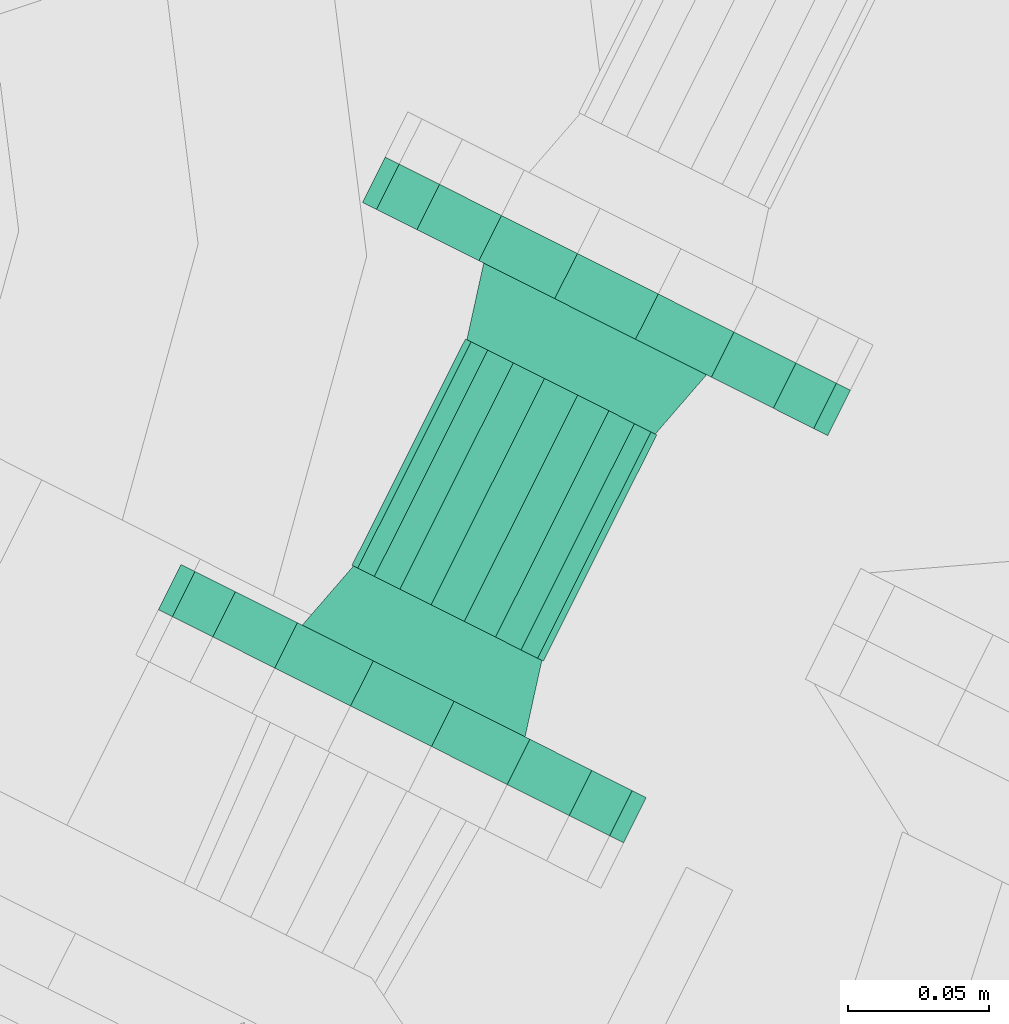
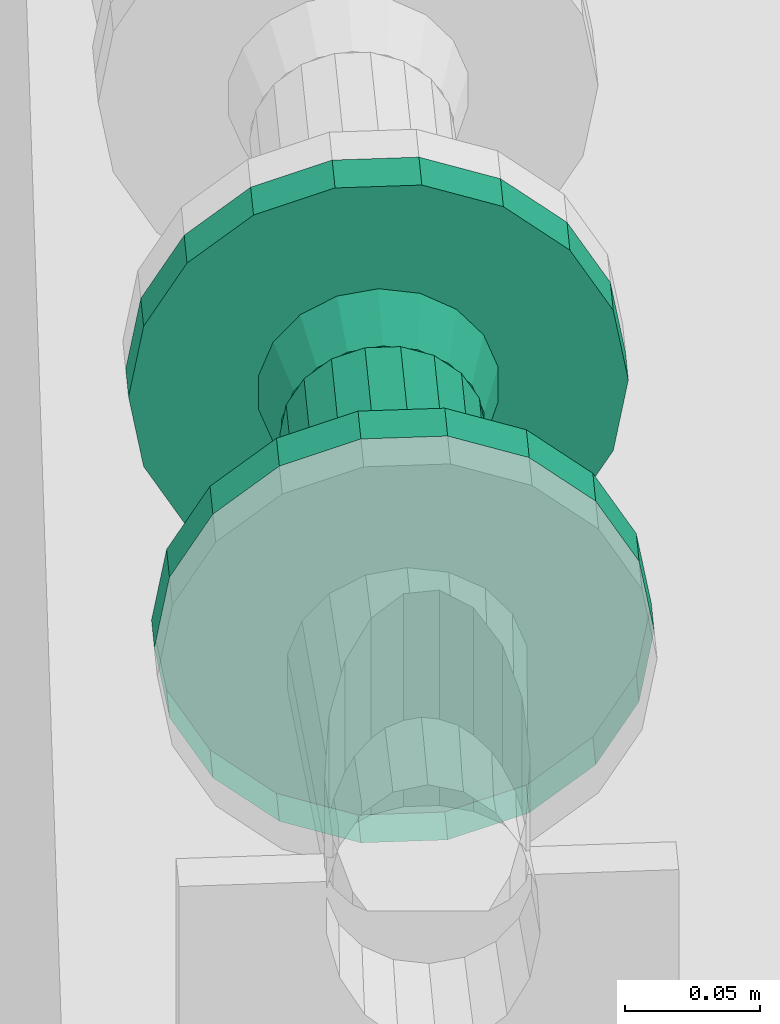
# One storey, part 68 of 206: 2 flow fittings, 1 flow segment.
"""IFC2X3 building model written with IfcOpenShell, lengths in metres."""

from ifc_helpers import new_model, si_unit, derived_unit, direction, frame, origin, place, context, subcontext, project, spatial, face_set, surface_model, source, transform, mapped, material, type_object, type_shapes, element, save


model = new_model("IFC2X3")

# Units and contexts
model_context = context("Model", 3, precision=5.2338327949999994e-05, world=origin(), true_north=direction((0.0, 1.0)))
body_context = subcontext(model_context, "Body", "Model", "MODEL_VIEW")
ifc_project = project(units=[si_unit("LENGTHUNIT", "METRE"), si_unit("AREAUNIT", "SQUARE_METRE"), si_unit("VOLUMEUNIT", "CUBIC_METRE"), si_unit("MASSUNIT", "GRAM", prefix="KILO"), si_unit("PLANEANGLEUNIT", "RADIAN"), derived_unit("THERMALTRANSMITTANCEUNIT", [(si_unit("MASSUNIT", "GRAM", prefix="KILO"), 1), (si_unit("THERMODYNAMICTEMPERATUREUNIT", "KELVIN"), -1), (si_unit("TIMEUNIT", "SECOND"), -3)])], contexts=[model_context])

# Site, building, storey
site_placement = place(None, frame((0.0, 0.0, 0.0), z_axis=(0.0, 0.0, 1.0), x_axis=(0.8939966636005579, -0.4480736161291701, 0.0)))
site = spatial("IfcSite", under=ifc_project, at=site_placement, Name="Default", CompositionType="ELEMENT")
building_placement = place(site_placement, origin())
building = spatial("IfcBuilding", under=site, at=building_placement, CompositionType="ELEMENT")
storey_placement = place(building_placement, origin())
storey = spatial("IfcBuildingStorey", under=building, at=storey_placement, Name="Erdgeschoss", CompositionType="ELEMENT", Elevation=0.0)

# Flow fitting
ifc_material = material(Name="IfcSurfaceStyle #352577")
distribution_element_type_1 = type_object("IfcDistributionElementType", Name="Flansch 604159:Flansch 604159", material=ifc_material)
shared_shape_1 = source(origin(), body_context, "Body", "SurfaceModel", [
    surface_model("IfcFaceBasedSurfaceModel", [(24.998140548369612, 5.71795839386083, 0.8699999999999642), (25.00371898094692, 5.71795839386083, 0.8383631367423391), (25.00371898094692, 5.699958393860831, 0.8383631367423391), (24.998140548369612, 5.699958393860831, 0.8699999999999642), (25.01978143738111, 5.71795839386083, 0.810542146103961), (25.01978143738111, 5.699958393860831, 0.810542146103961), (25.044390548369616, 5.71795839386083, 0.7898926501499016), (25.044390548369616, 5.699958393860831, 0.7898926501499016), (25.07457809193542, 5.71795839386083, 0.7789052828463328), (25.07457809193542, 5.699958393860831, 0.7789052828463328), (25.10670300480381, 5.71795839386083, 0.7789052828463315), (25.10670300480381, 5.699958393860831, 0.7789052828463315), (25.136890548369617, 5.71795839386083, 0.7898926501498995), (25.136890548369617, 5.699958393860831, 0.7898926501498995), (25.161499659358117, 5.71795839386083, 0.8105421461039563), (25.161499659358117, 5.699958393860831, 0.8105421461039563), (25.17756211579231, 5.71795839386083, 0.8383631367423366), (25.17756211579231, 5.699958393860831, 0.8383631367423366), (25.183140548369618, 5.71795839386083, 0.8699999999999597), (25.183140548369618, 5.699958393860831, 0.8699999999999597), (25.17756211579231, 5.71795839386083, 0.9016368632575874), (25.17756211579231, 5.699958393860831, 0.9016368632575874), (25.161499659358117, 5.71795839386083, 0.9294578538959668), (25.161499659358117, 5.699958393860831, 0.9294578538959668), (25.13689054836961, 5.71795839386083, 0.9501073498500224), (25.13689054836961, 5.699958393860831, 0.9501073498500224), (25.10670300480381, 5.71795839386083, 0.9610947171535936), (25.10670300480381, 5.699958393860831, 0.9610947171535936), (25.07457809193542, 5.71795839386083, 0.9610947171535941), (25.07457809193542, 5.699958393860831, 0.9610947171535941), (25.044390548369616, 5.71795839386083, 0.9501073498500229), (25.044390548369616, 5.699958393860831, 0.9501073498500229), (25.01978143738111, 5.71795839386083, 0.9294578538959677), (25.01978143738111, 5.699958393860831, 0.9294578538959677), (25.003718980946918, 5.71795839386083, 0.9016368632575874), (25.003718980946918, 5.699958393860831, 0.9016368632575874), (25.090640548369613, 5.699958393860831, 0.8699999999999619), (25.090640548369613, 5.699958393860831, 0.8249999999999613), (25.106031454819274, 5.699958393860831, 0.8277138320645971), (25.10365441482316, 5.672958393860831, 0.8342446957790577), (25.090640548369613, 5.672958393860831, 0.8319499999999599), (25.119565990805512, 5.699958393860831, 0.8355280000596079), (25.11509861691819, 5.672958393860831, 0.8408520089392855), (25.129611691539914, 5.699958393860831, 0.8474999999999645), (25.123592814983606, 5.672958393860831, 0.8509749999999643), (25.13495689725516, 5.699958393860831, 0.8621858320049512), (25.128112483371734, 5.672958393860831, 0.8633926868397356), (25.13495689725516, 5.699958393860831, 0.8778141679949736), (25.12811248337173, 5.672958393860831, 0.8766073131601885), (25.129611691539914, 5.699958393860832, 0.8924999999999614), (25.123592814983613, 5.6729583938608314, 0.889024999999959), (25.119565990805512, 5.699958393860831, 0.9044719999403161), (25.115098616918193, 5.672958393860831, 0.8991479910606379), (25.10603145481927, 5.699958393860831, 0.9122861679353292), (25.10365441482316, 5.672958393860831, 0.9057553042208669), (25.090640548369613, 5.699958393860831, 0.9149999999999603), (25.090640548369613, 5.672958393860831, 0.9080499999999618), (25.075249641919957, 5.699958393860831, 0.9122861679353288), (25.07762668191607, 5.672958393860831, 0.9057553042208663), (25.061715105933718, 5.69995839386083, 0.9044719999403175), (25.06618247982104, 5.67295839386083, 0.8991479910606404), (25.051669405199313, 5.699958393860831, 0.8924999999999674), (25.05768828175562, 5.672958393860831, 0.8890249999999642), (25.046324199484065, 5.699958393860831, 0.8778141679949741), (25.053168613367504, 5.672958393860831, 0.8766073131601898), (25.046324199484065, 5.699958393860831, 0.8621858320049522), (25.0531686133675, 5.672958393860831, 0.8633926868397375), (25.051669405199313, 5.699958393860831, 0.8474999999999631), (25.05768828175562, 5.672958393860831, 0.850974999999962), (25.061715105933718, 5.699958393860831, 0.8355280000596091), (25.06618247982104, 5.672958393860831, 0.8408520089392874), (25.075249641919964, 5.699958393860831, 0.8277138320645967), (25.077626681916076, 5.672958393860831, 0.8342446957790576)], [face_set([[[0, 1, 2, 3]], [[1, 4, 5, 2]], [[4, 6, 7, 5]], [[6, 8, 9, 7]], [[8, 10, 11, 9]], [[10, 12, 13, 11]], [[12, 14, 15, 13]], [[14, 16, 17, 15]], [[16, 18, 19, 17]], [[18, 20, 21, 19]], [[20, 22, 23, 21]], [[22, 24, 25, 23]], [[24, 26, 27, 25]], [[26, 28, 29, 27]], [[28, 30, 31, 29]], [[30, 32, 33, 31]], [[32, 34, 35, 33]], [[34, 0, 3, 35]], [[36, 35, 3]], [[36, 33, 35]], [[36, 31, 33]], [[36, 29, 31]], [[36, 27, 29]], [[36, 25, 27]], [[36, 23, 25]], [[36, 21, 23]], [[36, 19, 21]], [[36, 17, 19]], [[36, 15, 17]], [[36, 13, 15]], [[36, 11, 13]], [[36, 9, 11]], [[36, 7, 9]], [[36, 5, 7]], [[36, 2, 5]], [[36, 3, 2]], [[37, 38, 39, 40]], [[38, 41, 42, 39]], [[41, 43, 44, 42]], [[43, 45, 46, 44]], [[45, 47, 48, 46]], [[47, 49, 50, 48]], [[49, 51, 52, 50]], [[51, 53, 54, 52]], [[53, 55, 56, 54]], [[55, 57, 58, 56]], [[57, 59, 60, 58]], [[59, 61, 62, 60]], [[61, 63, 64, 62]], [[63, 65, 66, 64]], [[65, 67, 68, 66]], [[67, 69, 70, 68]], [[69, 71, 72, 70]], [[71, 37, 40, 72]]])]),
])
type_shapes(distribution_element_type_1, [shared_shape_1])
flow_fitting_1_placement = place(storey_placement, origin())
element("IfcFlowFitting", 1, at=flow_fitting_1_placement, inside=storey, type_object=distribution_element_type_1, material=ifc_material, Name="Flansch", ObjectType="Flansch", context=body_context, shape_type="MappedRepresentation", body=[
    mapped(shared_shape_1, transform((0.0, 0.0, 0.0), scale=1.0)),
])

# Flow segment
distribution_element_type_2 = type_object("IfcDistributionElementType", Name="Stahlrohr nach DIN 2448 604224:Stahlrohr nach DIN 2448 604224", material=ifc_material)
shared_shape_2 = source(origin(), body_context, "Body", "SurfaceModel", [
    surface_model("IfcFaceBasedSurfaceModel", [(25.128690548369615, 5.672958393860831, 0.869999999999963), (25.126395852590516, 5.672958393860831, 0.8830138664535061), (25.126395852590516, 5.582958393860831, 0.8830138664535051), (25.128690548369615, 5.582958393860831, 0.8699999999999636), (25.11978853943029, 5.672958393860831, 0.8944580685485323), (25.119788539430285, 5.582958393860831, 0.8944580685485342), (25.109665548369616, 5.672958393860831, 0.902952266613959), (25.10966554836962, 5.582958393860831, 0.902952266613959), (25.097247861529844, 5.672958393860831, 0.9074719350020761), (25.097247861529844, 5.582958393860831, 0.9074719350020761), (25.084033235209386, 5.672958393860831, 0.9074719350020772), (25.084033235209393, 5.582958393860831, 0.9074719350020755), (25.071615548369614, 5.672958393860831, 0.9029522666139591), (25.07161554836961, 5.582958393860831, 0.9029522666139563), (25.061492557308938, 5.672958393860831, 0.8944580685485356), (25.06149255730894, 5.582958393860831, 0.8944580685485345), (25.05488524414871, 5.672958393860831, 0.8830138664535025), (25.05488524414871, 5.582958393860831, 0.8830138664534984), (25.052590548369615, 5.672958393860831, 0.8699999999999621), (25.05259054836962, 5.582958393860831, 0.8699999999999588), (25.05488524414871, 5.672958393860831, 0.8569861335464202), (25.05488524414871, 5.582958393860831, 0.8569861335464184), (25.061492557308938, 5.672958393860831, 0.8455419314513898), (25.06149255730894, 5.582958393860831, 0.845541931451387), (25.071615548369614, 5.672958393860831, 0.8370477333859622), (25.071615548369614, 5.582958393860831, 0.8370477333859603), (25.084033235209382, 5.672958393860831, 0.8325280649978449), (25.084033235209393, 5.582958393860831, 0.8325280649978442), (25.097247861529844, 5.672958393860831, 0.8325280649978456), (25.097247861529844, 5.582958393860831, 0.832528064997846), (25.109665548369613, 5.672958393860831, 0.8370477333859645), (25.109665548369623, 5.582958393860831, 0.837047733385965), (25.11978853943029, 5.672958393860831, 0.8455419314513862), (25.119788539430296, 5.582958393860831, 0.8455419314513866), (25.126395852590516, 5.672958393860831, 0.8569861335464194), (25.12639585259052, 5.582958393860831, 0.8569861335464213)], [face_set([[[0, 1, 2, 3]], [[1, 4, 5, 2]], [[4, 6, 7, 5]], [[6, 8, 9, 7]], [[8, 10, 11, 9]], [[10, 12, 13, 11]], [[12, 14, 15, 13]], [[14, 16, 17, 15]], [[16, 18, 19, 17]], [[18, 20, 21, 19]], [[20, 22, 23, 21]], [[22, 24, 25, 23]], [[24, 26, 27, 25]], [[26, 28, 29, 27]], [[28, 30, 31, 29]], [[30, 32, 33, 31]], [[32, 34, 35, 33]], [[34, 0, 3, 35]]])]),
])
type_shapes(distribution_element_type_2, [shared_shape_2])
flow_segment_placement = place(storey_placement, origin())
element("IfcFlowSegment", 2, at=flow_segment_placement, inside=storey, type_object=distribution_element_type_2, material=ifc_material, Name="Stahlrohr nach DIN 2448", ObjectType="Stahlrohr nach DIN 2448", context=body_context, shape_type="MappedRepresentation", body=[
    mapped(shared_shape_2, transform((0.0, 0.0, 0.0), scale=1.0)),
])

# Flow fitting
distribution_element_type_3 = type_object("IfcDistributionElementType", Name="Flansch 604293:Flansch 604293", material=ifc_material)
shared_shape_3 = source(origin(), body_context, "Body", "SurfaceModel", [
    surface_model("IfcFaceBasedSurfaceModel", [(25.090640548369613, 5.582958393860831, 0.9080499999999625), (25.07762668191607, 5.582958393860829, 0.9057553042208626), (25.075249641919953, 5.555958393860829, 0.9122861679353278), (25.090640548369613, 5.5559583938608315, 0.9149999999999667), (25.066182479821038, 5.582958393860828, 0.8991479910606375), (25.061715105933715, 5.55595839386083, 0.9044719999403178), (25.057688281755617, 5.582958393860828, 0.889024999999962), (25.051669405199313, 5.555958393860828, 0.8924999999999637), (25.0531686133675, 5.582958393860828, 0.8766073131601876), (25.046324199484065, 5.555958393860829, 0.8778141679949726), (25.053168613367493, 5.582958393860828, 0.8633926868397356), (25.046324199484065, 5.555958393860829, 0.8621858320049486), (25.05768828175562, 5.582958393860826, 0.8509749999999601), (25.051669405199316, 5.555958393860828, 0.8474999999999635), (25.066182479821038, 5.582958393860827, 0.8408520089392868), (25.061715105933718, 5.555958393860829, 0.8355280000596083), (25.07762668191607, 5.582958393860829, 0.8342446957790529), (25.075249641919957, 5.55595839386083, 0.8277138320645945), (25.090640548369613, 5.582958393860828, 0.8319499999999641), (25.090640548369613, 5.55595839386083, 0.8249999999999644), (25.103654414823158, 5.582958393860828, 0.8342446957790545), (25.10603145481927, 5.55595839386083, 0.8277138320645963), (25.115098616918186, 5.582958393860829, 0.8408520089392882), (25.11956599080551, 5.55595839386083, 0.8355280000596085), (25.12359281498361, 5.582958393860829, 0.8509749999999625), (25.129611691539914, 5.55595839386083, 0.8474999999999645), (25.12811248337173, 5.582958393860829, 0.8633926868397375), (25.134956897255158, 5.55595839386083, 0.8621858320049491), (25.128112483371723, 5.582958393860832, 0.8766073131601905), (25.13495689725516, 5.5559583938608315, 0.8778141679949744), (25.12359281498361, 5.582958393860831, 0.8890249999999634), (25.129611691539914, 5.55595839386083, 0.8924999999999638), (25.115098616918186, 5.582958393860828, 0.8991479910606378), (25.11956599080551, 5.55595839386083, 0.9044719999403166), (25.103654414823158, 5.582958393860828, 0.9057553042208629), (25.106031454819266, 5.5559583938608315, 0.9122861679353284), (25.183140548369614, 5.555958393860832, 0.869999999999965), (25.17756211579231, 5.555958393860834, 0.9016368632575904), (25.17756211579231, 5.53795839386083, 0.9016368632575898), (25.183140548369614, 5.53795839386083, 0.8699999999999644), (25.161499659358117, 5.5559583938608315, 0.9294578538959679), (25.161499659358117, 5.537958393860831, 0.9294578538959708), (25.136890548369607, 5.55595839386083, 0.950107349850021), (25.13689054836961, 5.53795839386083, 0.9501073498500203), (25.106703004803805, 5.555958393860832, 0.9610947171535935), (25.106703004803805, 5.53795839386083, 0.961094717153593), (25.074578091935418, 5.555958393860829, 0.9610947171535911), (25.074578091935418, 5.537958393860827, 0.9610947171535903), (25.044390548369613, 5.555958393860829, 0.9501073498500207), (25.044390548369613, 5.537958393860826, 0.95010734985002), (25.019781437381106, 5.555958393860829, 0.929457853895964), (25.019781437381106, 5.537958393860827, 0.9294578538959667), (25.003718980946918, 5.555958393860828, 0.9016368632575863), (25.003718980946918, 5.537958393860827, 0.9016368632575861), (24.99814054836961, 5.555958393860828, 0.8699999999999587), (24.99814054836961, 5.5379583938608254, 0.8699999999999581), (25.00371898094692, 5.555958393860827, 0.8383631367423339), (25.00371898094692, 5.537958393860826, 0.8383631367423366), (25.01978143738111, 5.555958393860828, 0.810542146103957), (25.01978143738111, 5.5379583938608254, 0.8105421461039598), (25.044390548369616, 5.555958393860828, 0.789892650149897), (25.044390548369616, 5.537958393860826, 0.7898926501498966), (25.07457809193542, 5.555958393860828, 0.778905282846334), (25.07457809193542, 5.537958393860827, 0.7789052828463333), (25.106703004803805, 5.55595839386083, 0.7789052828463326), (25.106703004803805, 5.537958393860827, 0.7789052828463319), (25.13689054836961, 5.555958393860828, 0.7898926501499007), (25.13689054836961, 5.537958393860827, 0.7898926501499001), (25.161499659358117, 5.55595839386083, 0.810542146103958), (25.161499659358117, 5.537958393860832, 0.8105421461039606), (25.17756211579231, 5.55595839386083, 0.8383631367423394), (25.17756211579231, 5.537958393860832, 0.8383631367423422), (25.090640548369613, 5.555958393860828, 0.8699999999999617)], [face_set([[[0, 1, 2, 3]], [[1, 4, 5, 2]], [[4, 6, 7, 5]], [[6, 8, 9, 7]], [[8, 10, 11, 9]], [[10, 12, 13, 11]], [[12, 14, 15, 13]], [[14, 16, 17, 15]], [[16, 18, 19, 17]], [[18, 20, 21, 19]], [[20, 22, 23, 21]], [[22, 24, 25, 23]], [[24, 26, 27, 25]], [[26, 28, 29, 27]], [[28, 30, 31, 29]], [[30, 32, 33, 31]], [[32, 34, 35, 33]], [[34, 0, 3, 35]], [[36, 37, 38, 39]], [[37, 40, 41, 38]], [[40, 42, 43, 41]], [[42, 44, 45, 43]], [[44, 46, 47, 45]], [[46, 48, 49, 47]], [[48, 50, 51, 49]], [[50, 52, 53, 51]], [[52, 54, 55, 53]], [[54, 56, 57, 55]], [[56, 58, 59, 57]], [[58, 60, 61, 59]], [[60, 62, 63, 61]], [[62, 64, 65, 63]], [[64, 66, 67, 65]], [[66, 68, 69, 67]], [[68, 70, 71, 69]], [[70, 36, 39, 71]], [[72, 37, 36]], [[72, 40, 37]], [[72, 42, 40]], [[72, 44, 42]], [[72, 46, 44]], [[72, 48, 46]], [[72, 50, 48]], [[72, 52, 50]], [[72, 54, 52]], [[72, 56, 54]], [[72, 58, 56]], [[72, 60, 58]], [[72, 62, 60]], [[72, 64, 62]], [[72, 66, 64]], [[72, 68, 66]], [[72, 70, 68]], [[72, 36, 70]]])]),
])
type_shapes(distribution_element_type_3, [shared_shape_3])
flow_fitting_2_placement = place(storey_placement, origin())
element("IfcFlowFitting", 3, at=flow_fitting_2_placement, inside=storey, type_object=distribution_element_type_3, material=ifc_material, Name="Flansch", ObjectType="Flansch", context=body_context, shape_type="MappedRepresentation", body=[
    mapped(shared_shape_3, transform((0.0, 0.0, 0.0), scale=1.0)),
])

save(model, "model.ifc")
